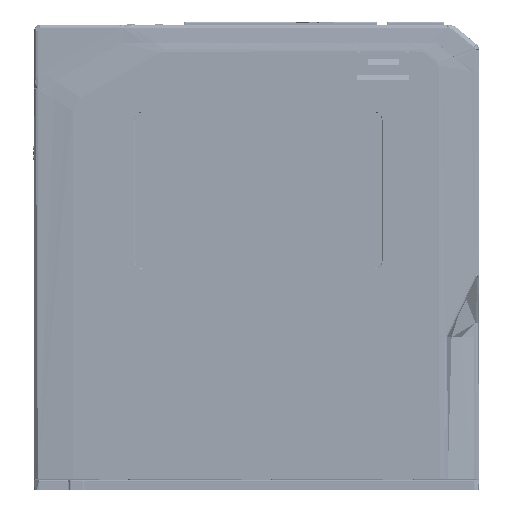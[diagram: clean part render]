
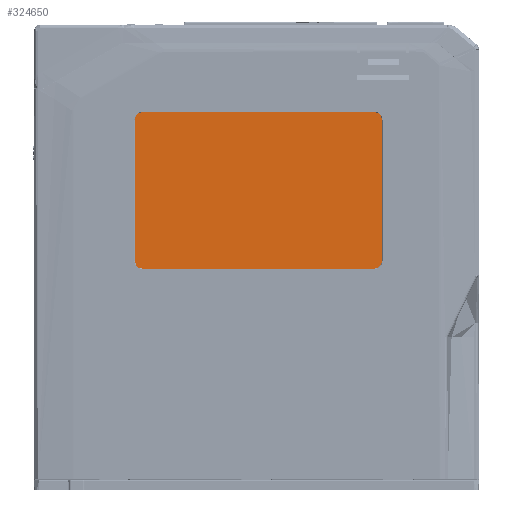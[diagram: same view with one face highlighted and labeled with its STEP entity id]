
A CAD part, left-side view. The second image highlights one B-rep face of the part: STEP entity #324650.
In plain terms, the highlighted planar face has unit normal (-1, 0, 0).
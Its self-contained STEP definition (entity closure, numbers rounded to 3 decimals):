
#6517 = AXIS2_PLACEMENT_3D ( 'NONE', #250480, #314101, #529940 ) ;
#23490 = ORIENTED_EDGE ( 'NONE', *, *, #179074, .T. ) ;
#33750 = LINE ( 'NONE', #37247, #269141 ) ;
#37247 = CARTESIAN_POINT ( 'NONE',  ( -20.754, -76.222, -33.85 ) ) ;
#39573 = EDGE_CURVE ( 'NONE', #648684, #621816, #542818, .T. ) ;
#56127 = PLANE ( 'NONE',  #339670 ) ;
#60219 = EDGE_CURVE ( 'NONE', #90220, #252348, #526385, .T. ) ;
#90050 = VERTEX_POINT ( 'NONE', #163456 ) ;
#90220 = VERTEX_POINT ( 'NONE', #287006 ) ;
#104443 = DIRECTION ( 'NONE',  ( 0., 0., 1. ) ) ;
#121278 = VERTEX_POINT ( 'NONE', #328749 ) ;
#121723 = DIRECTION ( 'NONE',  ( 0., -1., 0. ) ) ;
#133683 = LINE ( 'NONE', #674941, #402966 ) ;
#139574 = CARTESIAN_POINT ( 'NONE',  ( -20.754, -73.222, -91.45 ) ) ;
#155453 = CIRCLE ( 'NONE', #290757, 3. ) ;
#163456 = CARTESIAN_POINT ( 'NONE',  ( -20.754, -76.222, -94.45 ) ) ;
#178266 = DIRECTION ( 'NONE',  ( -1., 0., 0. ) ) ;
#179074 = EDGE_CURVE ( 'NONE', #252348, #121278, #272789, .T. ) ;
#181131 = AXIS2_PLACEMENT_3D ( 'NONE', #663002, #178266, #121723 ) ;
#189962 = ORIENTED_EDGE ( 'NONE', *, *, #210318, .T. ) ;
#210318 = EDGE_CURVE ( 'NONE', #121278, #262732, #325525, .T. ) ;
#216275 = ORIENTED_EDGE ( 'NONE', *, *, #60219, .T. ) ;
#230137 = DIRECTION ( 'NONE',  ( 0., 0., 1. ) ) ;
#241165 = DIRECTION ( 'NONE',  ( -1., 0., 0. ) ) ;
#250480 = CARTESIAN_POINT ( 'NONE',  ( -20.754, -165.822, -91.45 ) ) ;
#252348 = VERTEX_POINT ( 'NONE', #505128 ) ;
#257757 = EDGE_LOOP ( 'NONE', ( #384001, #347197, #547291, #671860, #216275, #23490, #189962, #453016 ) ) ;
#261538 = LINE ( 'NONE', #686207, #642802 ) ;
#262732 = VERTEX_POINT ( 'NONE', #467731 ) ;
#269141 = VECTOR ( 'NONE', #289551, 1000. ) ;
#272789 = LINE ( 'NONE', #562621, #292850 ) ;
#277905 = EDGE_CURVE ( 'NONE', #90050, #90220, #133683, .T. ) ;
#287006 = CARTESIAN_POINT ( 'NONE',  ( -20.754, -165.822, -94.45 ) ) ;
#289551 = DIRECTION ( 'NONE',  ( 0., 1., 0. ) ) ;
#290757 = AXIS2_PLACEMENT_3D ( 'NONE', #629185, #576071, #104443 ) ;
#292850 = VECTOR ( 'NONE', #230137, 1000. ) ;
#292895 = DIRECTION ( 'NONE',  ( 0., -1., 0. ) ) ;
#314101 = DIRECTION ( 'NONE',  ( -1., 0., 0. ) ) ;
#321520 = FACE_OUTER_BOUND ( 'NONE', #257757, .T. ) ;
#322015 = EDGE_CURVE ( 'NONE', #621816, #682466, #261538, .T. ) ;
#324650 = ADVANCED_FACE ( 'NONE', ( #321520 ), #56127, .T. ) ;
#325525 = CIRCLE ( 'NONE', #337145, 3. ) ;
#328749 = CARTESIAN_POINT ( 'NONE',  ( -20.754, -168.822, -36.85 ) ) ;
#329076 = EDGE_CURVE ( 'NONE', #262732, #648684, #33750, .T. ) ;
#337145 = AXIS2_PLACEMENT_3D ( 'NONE', #566674, #241165, #626745 ) ;
#339670 = AXIS2_PLACEMENT_3D ( 'NONE', #537402, #477345, #491240 ) ;
#347197 = ORIENTED_EDGE ( 'NONE', *, *, #322015, .T. ) ;
#361970 = CARTESIAN_POINT ( 'NONE',  ( -20.754, -76.222, -33.85 ) ) ;
#375973 = CARTESIAN_POINT ( 'NONE',  ( -20.754, -73.222, -36.85 ) ) ;
#384001 = ORIENTED_EDGE ( 'NONE', *, *, #39573, .T. ) ;
#402966 = VECTOR ( 'NONE', #292895, 1000. ) ;
#453016 = ORIENTED_EDGE ( 'NONE', *, *, #329076, .T. ) ;
#467731 = CARTESIAN_POINT ( 'NONE',  ( -20.754, -165.822, -33.85 ) ) ;
#473948 = DIRECTION ( 'NONE',  ( 0., 0., -1. ) ) ;
#477345 = DIRECTION ( 'NONE',  ( -1., 0., 0. ) ) ;
#491240 = DIRECTION ( 'NONE',  ( 0., -1., 0. ) ) ;
#505128 = CARTESIAN_POINT ( 'NONE',  ( -20.754, -168.822, -91.45 ) ) ;
#526385 = CIRCLE ( 'NONE', #6517, 3. ) ;
#529940 = DIRECTION ( 'NONE',  ( 0., -1., 0. ) ) ;
#537402 = CARTESIAN_POINT ( 'NONE',  ( -20.754, -76.222, -91.45 ) ) ;
#539278 = EDGE_CURVE ( 'NONE', #682466, #90050, #155453, .T. ) ;
#542818 = CIRCLE ( 'NONE', #181131, 3. ) ;
#547291 = ORIENTED_EDGE ( 'NONE', *, *, #539278, .T. ) ;
#562621 = CARTESIAN_POINT ( 'NONE',  ( -20.754, -168.822, -36.85 ) ) ;
#566674 = CARTESIAN_POINT ( 'NONE',  ( -20.754, -165.822, -36.85 ) ) ;
#576071 = DIRECTION ( 'NONE',  ( -1., 0., 0. ) ) ;
#621816 = VERTEX_POINT ( 'NONE', #375973 ) ;
#626745 = DIRECTION ( 'NONE',  ( 0., -1., 0. ) ) ;
#629185 = CARTESIAN_POINT ( 'NONE',  ( -20.754, -76.222, -91.45 ) ) ;
#642802 = VECTOR ( 'NONE', #473948, 1000. ) ;
#648684 = VERTEX_POINT ( 'NONE', #361970 ) ;
#663002 = CARTESIAN_POINT ( 'NONE',  ( -20.754, -76.222, -36.85 ) ) ;
#671860 = ORIENTED_EDGE ( 'NONE', *, *, #277905, .T. ) ;
#674941 = CARTESIAN_POINT ( 'NONE',  ( -20.754, -76.222, -94.45 ) ) ;
#682466 = VERTEX_POINT ( 'NONE', #139574 ) ;
#686207 = CARTESIAN_POINT ( 'NONE',  ( -20.754, -73.222, -36.85 ) ) ;
